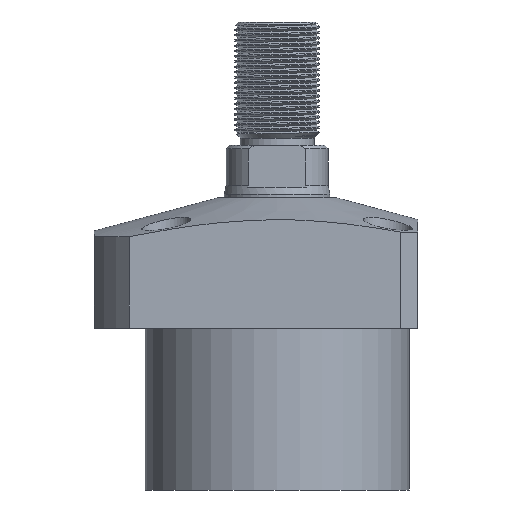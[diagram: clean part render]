
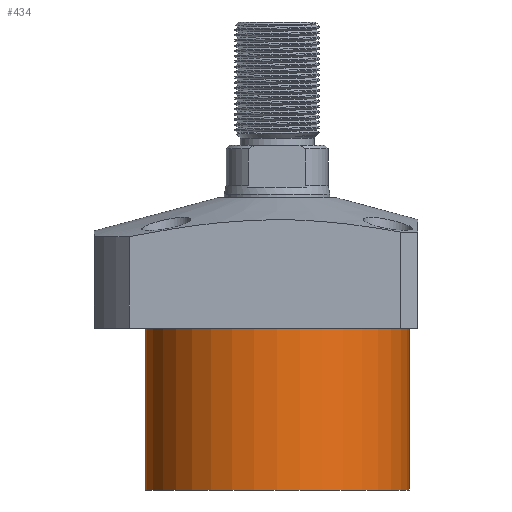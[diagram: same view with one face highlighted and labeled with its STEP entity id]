
A CAD part, front view. The second image highlights one B-rep face of the part: STEP entity #434.
In plain terms, the highlighted cylindrical face has radius 37.5 mm (diameter 75 mm), a partial arc.
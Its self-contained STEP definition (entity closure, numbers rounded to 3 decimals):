
#27 = CARTESIAN_POINT ( 'NONE',  ( 0., 0., -64.5 ) ) ;
#218 = VERTEX_POINT ( 'NONE', #5918 ) ;
#234 = CYLINDRICAL_SURFACE ( 'NONE', #2281, 37.5 ) ;
#301 = CIRCLE ( 'NONE', #2908, 37.5 ) ;
#434 = ADVANCED_FACE ( 'NONE', ( #3208 ), #234, .T. ) ;
#637 = VECTOR ( 'NONE', #966, 1000. ) ;
#832 = CIRCLE ( 'NONE', #6427, 37.5 ) ;
#938 = EDGE_CURVE ( 'NONE', #1940, #218, #3443, .T. ) ;
#953 = EDGE_CURVE ( 'NONE', #1149, #2182, #4010, .T. ) ;
#966 = DIRECTION ( 'NONE',  ( 0., 0., 1. ) ) ;
#1067 = EDGE_CURVE ( 'NONE', #1940, #1149, #301, .T. ) ;
#1149 = VERTEX_POINT ( 'NONE', #2943 ) ;
#1452 = ORIENTED_EDGE ( 'NONE', *, *, #4011, .T. ) ;
#1940 = VERTEX_POINT ( 'NONE', #4025 ) ;
#1946 = CARTESIAN_POINT ( 'NONE',  ( -37.5, 0., -64.5 ) ) ;
#1972 = DIRECTION ( 'NONE',  ( 0., 0., -1. ) ) ;
#2182 = VERTEX_POINT ( 'NONE', #3728 ) ;
#2202 = ORIENTED_EDGE ( 'NONE', *, *, #953, .F. ) ;
#2281 = AXIS2_PLACEMENT_3D ( 'NONE', #27, #5618, #3009 ) ;
#2289 = ORIENTED_EDGE ( 'NONE', *, *, #938, .T. ) ;
#2335 = EDGE_LOOP ( 'NONE', ( #2202, #3476, #2289, #1452 ) ) ;
#2456 = CARTESIAN_POINT ( 'NONE',  ( 37.5, 0., -64.5 ) ) ;
#2791 = CARTESIAN_POINT ( 'NONE',  ( 0., 0., -18.5 ) ) ;
#2908 = AXIS2_PLACEMENT_3D ( 'NONE', #3010, #1972, #5559 ) ;
#2943 = CARTESIAN_POINT ( 'NONE',  ( -37.5, 0., -64.5 ) ) ;
#3009 = DIRECTION ( 'NONE',  ( 1., 0., 0. ) ) ;
#3010 = CARTESIAN_POINT ( 'NONE',  ( 0., 0., -64.5 ) ) ;
#3208 = FACE_OUTER_BOUND ( 'NONE', #2335, .T. ) ;
#3443 = LINE ( 'NONE', #2456, #3518 ) ;
#3476 = ORIENTED_EDGE ( 'NONE', *, *, #1067, .F. ) ;
#3518 = VECTOR ( 'NONE', #6044, 1000. ) ;
#3728 = CARTESIAN_POINT ( 'NONE',  ( -37.5, 0., -18.5 ) ) ;
#4010 = LINE ( 'NONE', #1946, #637 ) ;
#4011 = EDGE_CURVE ( 'NONE', #218, #2182, #832, .T. ) ;
#4025 = CARTESIAN_POINT ( 'NONE',  ( 37.5, 0., -64.5 ) ) ;
#4897 = DIRECTION ( 'NONE',  ( 0., 0., -1. ) ) ;
#5421 = DIRECTION ( 'NONE',  ( 1., 0., 0. ) ) ;
#5559 = DIRECTION ( 'NONE',  ( -1., 0., 0. ) ) ;
#5618 = DIRECTION ( 'NONE',  ( 0., 0., 1. ) ) ;
#5918 = CARTESIAN_POINT ( 'NONE',  ( 37.5, 0., -18.5 ) ) ;
#6044 = DIRECTION ( 'NONE',  ( 0., 0., 1. ) ) ;
#6427 = AXIS2_PLACEMENT_3D ( 'NONE', #2791, #4897, #5421 ) ;
